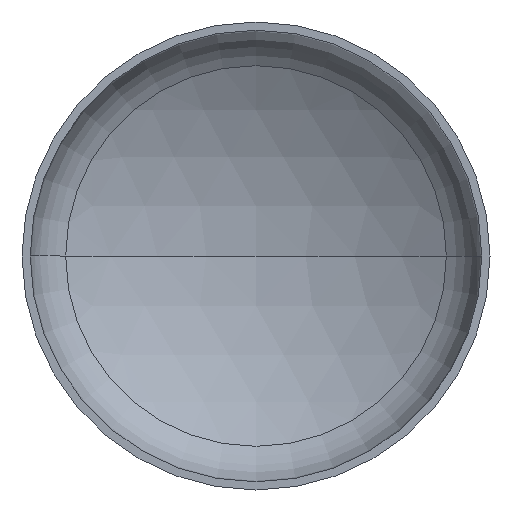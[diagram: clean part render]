
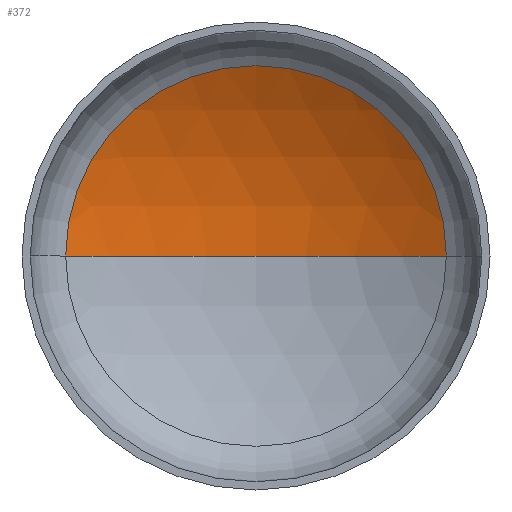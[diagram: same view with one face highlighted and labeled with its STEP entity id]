
A CAD part, front view. The second image highlights one B-rep face of the part: STEP entity #372.
In plain terms, the highlighted spherical face has radius 4000 mm.
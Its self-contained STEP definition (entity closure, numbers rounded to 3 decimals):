
#1 = AXIS2_PLACEMENT_3D ( 'NONE', #164, #149, #289 ) ;
#10 = EDGE_LOOP ( 'NONE', ( #148, #380, #136 ) ) ;
#12 = VERTEX_POINT ( 'NONE', #290 ) ;
#15 = AXIS2_PLACEMENT_3D ( 'NONE', #187, #54, #362 ) ;
#20 = AXIS2_PLACEMENT_3D ( 'NONE', #143, #310, #312 ) ;
#25 = AXIS2_PLACEMENT_3D ( 'NONE', #145, #180, #177 ) ;
#44 = SPHERICAL_SURFACE ( 'NONE', #1, 4000. ) ;
#54 = DIRECTION ( 'NONE',  ( 0., -1., 0. ) ) ;
#57 = VERTEX_POINT ( 'NONE', #295 ) ;
#131 = VERTEX_POINT ( 'NONE', #305 ) ;
#136 = ORIENTED_EDGE ( 'NONE', *, *, #343, .T. ) ;
#143 = CARTESIAN_POINT ( 'NONE',  ( 0., -2681.499, 0. ) ) ;
#145 = CARTESIAN_POINT ( 'NONE',  ( 0., -2681.499, 0. ) ) ;
#148 = ORIENTED_EDGE ( 'NONE', *, *, #341, .F. ) ;
#149 = DIRECTION ( 'NONE',  ( 0., 0., -1. ) ) ;
#164 = CARTESIAN_POINT ( 'NONE',  ( 0., -2681.499, 0. ) ) ;
#177 = DIRECTION ( 'NONE',  ( -1., 0., 0. ) ) ;
#180 = DIRECTION ( 'NONE',  ( 0., 0., -1. ) ) ;
#187 = CARTESIAN_POINT ( 'NONE',  ( 0., 763.082, 0. ) ) ;
#188 = CIRCLE ( 'NONE', #15, 2033.437 ) ;
#265 = CIRCLE ( 'NONE', #25, 4000. ) ;
#289 = DIRECTION ( 'NONE',  ( -1., 0., 0. ) ) ;
#290 = CARTESIAN_POINT ( 'NONE',  ( 2033.437, 763.082, 0. ) ) ;
#295 = CARTESIAN_POINT ( 'NONE',  ( -2033.437, 763.082, 0. ) ) ;
#305 = CARTESIAN_POINT ( 'NONE',  ( 0., 1318.501, 0. ) ) ;
#310 = DIRECTION ( 'NONE',  ( 0., 0., 1. ) ) ;
#312 = DIRECTION ( 'NONE',  ( 1., 0., 0. ) ) ;
#337 = EDGE_CURVE ( 'NONE', #131, #12, #265, .T. ) ;
#341 = EDGE_CURVE ( 'NONE', #131, #57, #384, .T. ) ;
#343 = EDGE_CURVE ( 'NONE', #12, #57, #188, .T. ) ;
#362 = DIRECTION ( 'NONE',  ( 1., 0., 0. ) ) ;
#372 = ADVANCED_FACE ( 'NONE', ( #378 ), #44, .F. ) ;
#378 = FACE_OUTER_BOUND ( 'NONE', #10, .T. ) ;
#380 = ORIENTED_EDGE ( 'NONE', *, *, #337, .T. ) ;
#384 = CIRCLE ( 'NONE', #20, 4000. ) ;
